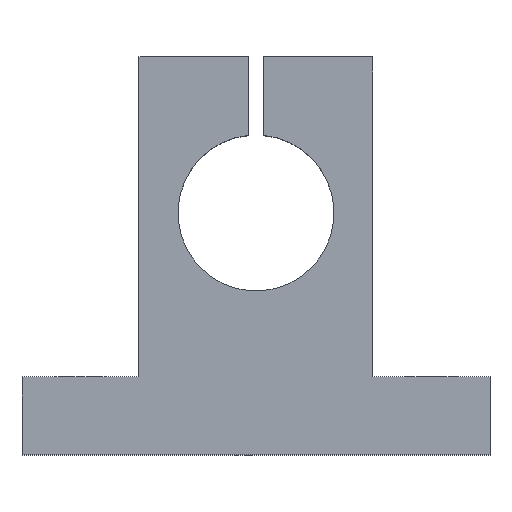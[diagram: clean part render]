
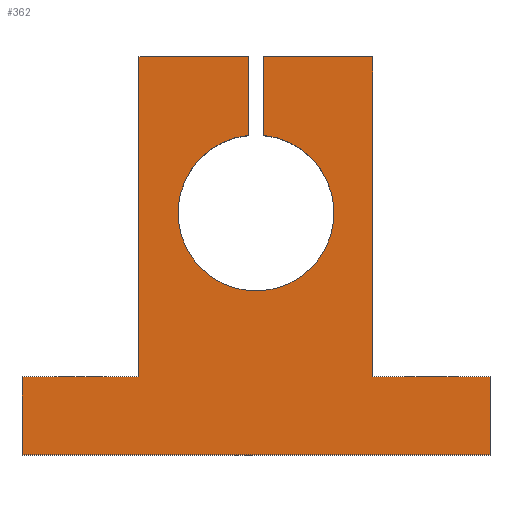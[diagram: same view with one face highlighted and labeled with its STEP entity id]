
A CAD part, top view. The second image highlights one B-rep face of the part: STEP entity #362.
In plain terms, the highlighted planar face has unit normal (0, 0, 1).
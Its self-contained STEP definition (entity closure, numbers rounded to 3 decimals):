
#27=CIRCLE('',#397,10.);
#47=ORIENTED_EDGE('',*,*,#139,.F.);
#48=ORIENTED_EDGE('',*,*,#135,.T.);
#49=ORIENTED_EDGE('',*,*,#140,.T.);
#50=ORIENTED_EDGE('',*,*,#141,.T.);
#51=ORIENTED_EDGE('',*,*,#142,.T.);
#52=ORIENTED_EDGE('',*,*,#143,.T.);
#53=ORIENTED_EDGE('',*,*,#144,.T.);
#54=ORIENTED_EDGE('',*,*,#145,.T.);
#55=ORIENTED_EDGE('',*,*,#146,.T.);
#56=ORIENTED_EDGE('',*,*,#147,.T.);
#57=ORIENTED_EDGE('',*,*,#132,.F.);
#58=ORIENTED_EDGE('',*,*,#148,.F.);
#132=EDGE_CURVE('',#178,#179,#212,.T.);
#135=EDGE_CURVE('',#181,#182,#214,.T.);
#139=EDGE_CURVE('',#181,#185,#218,.T.);
#140=EDGE_CURVE('',#182,#186,#219,.T.);
#141=EDGE_CURVE('',#186,#187,#220,.T.);
#142=EDGE_CURVE('',#187,#188,#221,.T.);
#143=EDGE_CURVE('',#188,#189,#222,.T.);
#144=EDGE_CURVE('',#189,#190,#223,.T.);
#145=EDGE_CURVE('',#190,#191,#224,.T.);
#146=EDGE_CURVE('',#191,#192,#225,.T.);
#147=EDGE_CURVE('',#192,#179,#226,.T.);
#148=EDGE_CURVE('',#185,#178,#27,.T.);
#178=VERTEX_POINT('',#531);
#179=VERTEX_POINT('',#533);
#181=VERTEX_POINT('',#539);
#182=VERTEX_POINT('',#540);
#185=VERTEX_POINT('',#548);
#186=VERTEX_POINT('',#550);
#187=VERTEX_POINT('',#552);
#188=VERTEX_POINT('',#554);
#189=VERTEX_POINT('',#556);
#190=VERTEX_POINT('',#558);
#191=VERTEX_POINT('',#560);
#192=VERTEX_POINT('',#562);
#212=LINE('',#532,#246);
#214=LINE('',#538,#248);
#218=LINE('',#547,#252);
#219=LINE('',#549,#253);
#220=LINE('',#551,#254);
#221=LINE('',#553,#255);
#222=LINE('',#555,#256);
#223=LINE('',#557,#257);
#224=LINE('',#559,#258);
#225=LINE('',#561,#259);
#226=LINE('',#563,#260);
#246=VECTOR('',#431,1000.);
#248=VECTOR('',#437,1000.);
#252=VECTOR('',#443,1000.);
#253=VECTOR('',#444,1000.);
#254=VECTOR('',#445,1000.);
#255=VECTOR('',#446,1000.);
#256=VECTOR('',#447,1000.);
#257=VECTOR('',#448,1000.);
#258=VECTOR('',#449,1000.);
#259=VECTOR('',#450,1000.);
#260=VECTOR('',#451,1000.);
#281=EDGE_LOOP('',(#47,#48,#49,#50,#51,#52,#53,#54,#55,#56,#57,#58));
#315=FACE_BOUND('',#281,.T.);
#348=PLANE('',#396);
#362=ADVANCED_FACE('',(#315),#348,.T.);
#396=AXIS2_PLACEMENT_3D('',#546,#441,#442);
#397=AXIS2_PLACEMENT_3D('',#564,#452,#453);
#431=DIRECTION('',(0.,1.,0.));
#437=DIRECTION('',(-1.,0.,0.));
#441=DIRECTION('',(0.,0.,1.));
#442=DIRECTION('',(1.,0.,0.));
#443=DIRECTION('',(0.,-1.,0.));
#444=DIRECTION('',(0.,-1.,0.));
#445=DIRECTION('',(-1.,0.,0.));
#446=DIRECTION('',(0.,-1.,0.));
#447=DIRECTION('',(1.,0.,0.));
#448=DIRECTION('',(0.,1.,0.));
#449=DIRECTION('',(-1.,0.,0.));
#450=DIRECTION('',(0.,1.,0.));
#451=DIRECTION('',(-1.,0.,0.));
#452=DIRECTION('',(0.,0.,1.));
#453=DIRECTION('',(1.,0.,0.));
#531=CARTESIAN_POINT('',(1.,9.95,10.));
#532=CARTESIAN_POINT('',(1.,20.,10.));
#533=CARTESIAN_POINT('',(1.,20.,10.));
#538=CARTESIAN_POINT('',(15.,20.,10.));
#539=CARTESIAN_POINT('',(-1.,20.,10.));
#540=CARTESIAN_POINT('',(-15.,20.,10.));
#546=CARTESIAN_POINT('',(30.,-21.,10.));
#547=CARTESIAN_POINT('',(-1.,20.,10.));
#548=CARTESIAN_POINT('',(-1.,9.95,10.));
#549=CARTESIAN_POINT('',(-15.,-21.,10.));
#550=CARTESIAN_POINT('',(-15.,-21.,10.));
#551=CARTESIAN_POINT('',(-30.,-21.,10.));
#552=CARTESIAN_POINT('',(-30.,-21.,10.));
#553=CARTESIAN_POINT('',(-30.,-31.,10.));
#554=CARTESIAN_POINT('',(-30.,-31.,10.));
#555=CARTESIAN_POINT('',(-30.,-31.,10.));
#556=CARTESIAN_POINT('',(30.,-31.,10.));
#557=CARTESIAN_POINT('',(30.,-31.,10.));
#558=CARTESIAN_POINT('',(30.,-21.,10.));
#559=CARTESIAN_POINT('',(30.,-21.,10.));
#560=CARTESIAN_POINT('',(15.,-21.,10.));
#561=CARTESIAN_POINT('',(15.,-21.,10.));
#562=CARTESIAN_POINT('',(15.,20.,10.));
#563=CARTESIAN_POINT('',(15.,20.,10.));
#564=CARTESIAN_POINT('',(0.,0.,10.));
